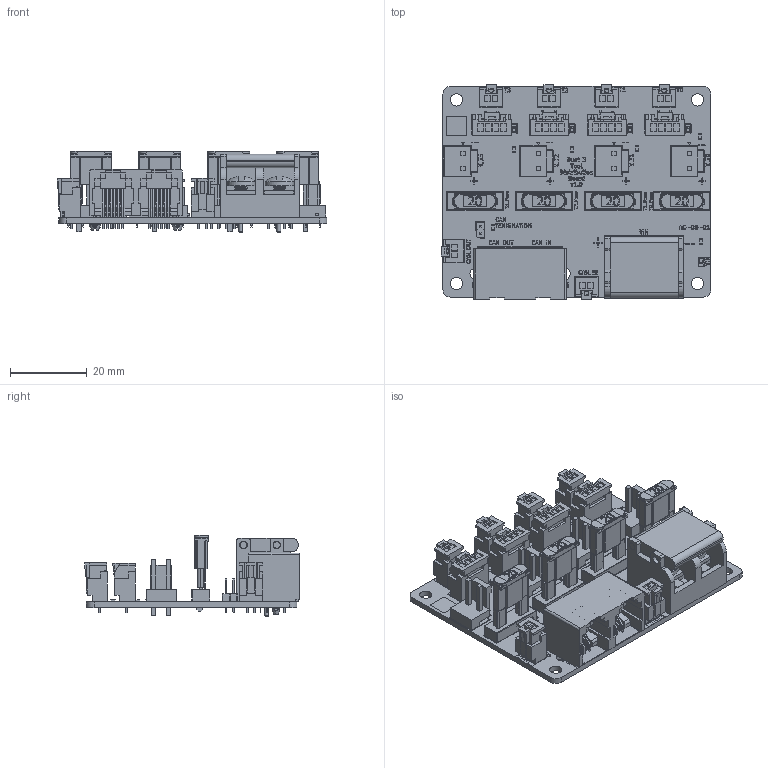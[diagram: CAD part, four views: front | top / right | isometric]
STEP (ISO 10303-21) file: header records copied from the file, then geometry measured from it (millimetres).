
FILE_DESCRIPTION(/* description */ ('FreeCAD Model'),/* implementation_level */ '2;1');
FILE_NAME(/* name */ 'Duet 3 Tool Distribution Board.step',/* time_stamp */ '2025-10-04T11:10:37+03:00',/* author */ (''),/* organization */ (''),/* preprocessor_version */ 'ST-DEVELOPER v20.1',/* originating_system */ 'Autodesk Translation Framework v14.17.0.0',/* authorisation */ '');
FILE_SCHEMA (('AUTOMOTIVE_DESIGN { 1 0 10303 214 3 1 1 }'));
Products named in the file (32): ToolDistribution_v1.0 1; Fuse_MINI 5A; MIN; Mini Blade Fuse Holder; Pins; Fuse_MINI 5A001; MIN001; Mini Blade Fuse Holder001; Pins001; Fuse_MINI 5A002; MIN002; Mini Blade Fuse Holder002; Pins002; Dual_RJ11_RJ12_scaled_C3097733; 9.5mm_1x2; PinHeader_1x02_P2.00mm_Vertical; Fuse_MINI 5A003; MIN003; Cube001; Mini Blade Fuse Holder003; Pins003; Body; ToolDistribution_silkscreen; ToolDistribution_PCB; B2P-VH-B-white; B04B-PASK-1; PAP-04V-S; L_0402_1005Metric; R_0603_1608Metric; LED_0603_1608Metric; B02B-PASK-1; PAP-02V-S
Assembly tree (72 placements, depth 3):
  ToolDistribution_v1.0 1
    Fuse_MINI 5A
      Cube001
      MIN
    Mini Blade Fuse Holder
      Body
      Pins
    Fuse_MINI 5A001
      MIN001
      Cube001
    Mini Blade Fuse Holder001
      Pins001
      Body
    Fuse_MINI 5A002
      MIN002
      Cube001
    Mini Blade Fuse Holder002
      Pins002
      Body
    Dual_RJ11_RJ12_scaled_C3097733
    9.5mm_1x2
    B2P-VH-B-white  x4
    PinHeader_1x02_P2.00mm_Vertical
    Fuse_MINI 5A003
      MIN003
      Cube001
    Mini Blade Fuse Holder003
      Pins003
      Body
    R_0603_1608Metric  x6
    L_0402_1005Metric  x8
    LED_0603_1608Metric  x5
    B04B-PASK-1  x4
    PAP-04V-S  x4
    B02B-PASK-1  x6
    PAP-02V-S  x6
    ToolDistribution_silkscreen
    ToolDistribution_PCB
Bounding box: 70.5 x 56.15 x 21.31 mm (x, y, z)
Volume: 18058.8 mm3; surface area: 29441.2 mm2
Topology: 100 solids, 491 shells, 4582 faces, 17056 edges, 13214 vertices
Faces by surface type: plane 3428, cylinder 757, bspline 205, sphere 116, torus 72, cone 4
Full cylindrical faces by diameter (mm): 0.6 x8, 0.7 x28, 0.8 x24, 1 x2, 1.1 x10, 1.7 x8, 1.8 x4, 1.9 x2, 2 x4, 2.508 x20, 3.2 x6, 3.332 x18, 3.529 x2, 4.086 x2, 7.62 x2
Entity records: 144015 total; most frequent: CARTESIAN_POINT 42182, DIRECTION 19837, ORIENTED_EDGE 18376, EDGE_CURVE 12314, VERTEX_POINT 10140, LINE 9021, VECTOR 9021, AXIS2_PLACEMENT_3D 5408
